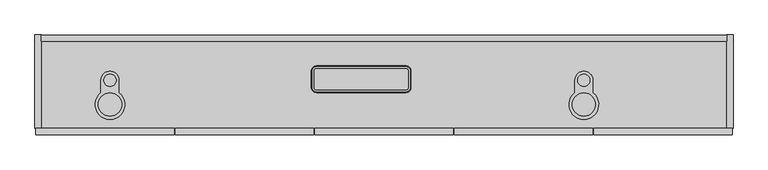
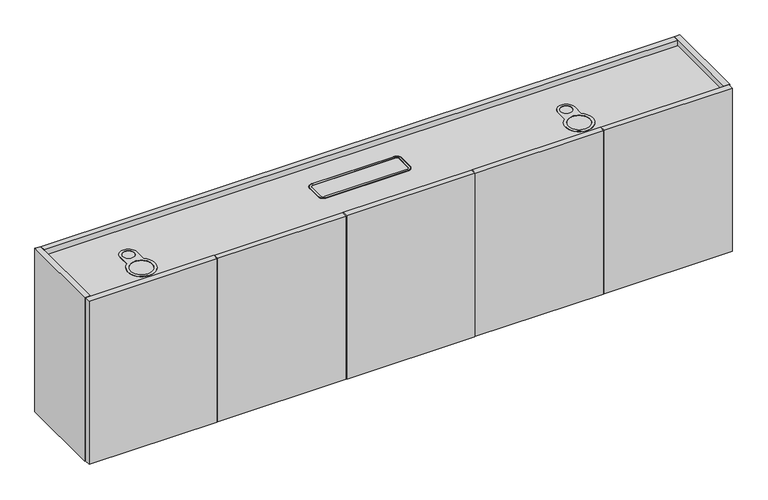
"""IFC4 building model written with IfcOpenShell, lengths in millimetres: furniture geometry, Geiger_GeigerOneCasegoods_UtilityCabinetForUseWithLDeskAccepts2Legs : Vertical Veneer 84Wx 12Dx 22.5H."""

from ifc_helpers import new_model, si_unit, point, frame, origin, place, context, project, spatial, polyline, circle_curve, ellipse_curve, trimmed, outline, extrude, faceted_brep, source, transform, mapped, element, save
from ifc_brep_helpers import plane_surface, cylinder_surface, revolved_surface, advanced_brep


def furniture_a0845434(model_context):
    return source(origin(), model_context, "Body", "SolidModel", [
        extrude(outline(polyline([(426.11876, -304.8), (3.0, -304.8), (3.0, -285.8), (426.11876, -285.8), (426.11876, -304.8)])), frame((0.0, 0.0, 12.7), z_axis=(0.0, 0.0, 1.0), x_axis=(1.0, 0.0, 0.0)), (0.0, 0.0, 1.0), 571.5),
        extrude(outline(polyline([(852.23752, -304.8), (429.11876, -304.8), (429.11876, -285.8), (852.23752, -285.8), (852.23752, -304.8)])), frame((0.0, 0.0, 12.7), z_axis=(0.0, 0.0, 1.0), x_axis=(1.0, 0.0, 0.0)), (0.0, 0.0, 1.0), 571.5),
        extrude(outline(polyline([(1278.35628, -304.8), (855.23752, -304.8), (855.23752, -285.8), (1278.35628, -285.8), (1278.35628, -304.8)])), frame((0.0, 0.0, 12.7), z_axis=(0.0, 0.0, 1.0), x_axis=(1.0, 0.0, 0.0)), (0.0, 0.0, 1.0), 571.5),
        extrude(outline(polyline([(1704.47504, -304.8), (1281.35628, -304.8), (1281.35628, -285.8), (1704.47504, -285.8), (1704.47504, -304.8)])), frame((0.0, 0.0, 12.7), z_axis=(0.0, 0.0, 1.0), x_axis=(1.0, 0.0, 0.0)), (0.0, 0.0, 1.0), 571.5),
        extrude(outline(polyline([(2130.6, -304.8), (1707.47504, -304.8), (1707.47504, -285.8), (2130.6, -285.8), (2130.6, -304.8)])), frame((0.0, 0.0, 12.7), z_axis=(0.0, 0.0, 1.0), x_axis=(1.0, 0.0, 0.0)), (0.0, 0.0, 1.0), 571.5),
        extrude(outline(polyline([(1270.9084, -284.8), (1270.9084, -19.5), (1289.9084, -19.5), (1289.9084, -284.8), (1270.9084, -284.8)])), frame((0.0, 0.0, 12.7), z_axis=(0.0, 0.0, 1.0), x_axis=(1.0, 0.0, 0.0)), (0.0, 0.0, 1.0), 533.5),
        faceted_brep([(2114.6, -19.5, 584.2), (2114.6, -19.5, 29.0), (2114.6, -0.5, 29.0), (2114.6, -0.5, 584.2), (2114.6, -284.3, 156.0), (2114.6, -284.3, 29.0), (2114.6, -265.3, 29.0), (2114.6, -265.3, 156.0), (19.0, -19.5, 584.2), (19.0, -0.5, 584.2), (19.0, -0.5, 29.0), (19.0, -19.5, 29.0), (19.0, -284.3, 156.0), (19.0, -265.3, 156.0), (19.0, -265.3, 29.0), (19.0, -284.3, 29.0), (418.3082, -19.5, 29.0), (418.3082, -19.5, 546.2), (437.3082, -19.5, 546.2), (437.3082, -19.5, 29.0), (418.3082, -265.3, 29.0), (418.3082, -283.875, 29.0), (437.3082, -283.875, 29.0), (437.3082, -265.3, 29.0), (437.3082, -265.3, 156.0), (418.3082, -265.3, 156.0), (437.3082, -283.875, 156.0), (418.3082, -283.875, 156.0), (418.3082, -283.875, 546.2), (418.3082, -19.5, 12.7), (418.3082, -283.875, 12.7), (437.3082, -283.875, 12.7), (437.3082, -19.5, 12.7), (437.3082, -283.875, 546.2)], [[[0, 1, 2, 3]], [[4, 5, 6, 7]], [[8, 9, 10, 11]], [[12, 13, 14, 15]], [[1, 0, 8, 11, 16, 17, 18, 19]], [[2, 1, 19, 16, 11, 10]], [[3, 2, 10, 9]], [[0, 3, 9, 8]], [[5, 4, 12, 15]], [[6, 5, 15, 14, 20, 21, 22, 23]], [[7, 6, 23, 24]], [[14, 13, 25, 20]], [[4, 7, 24, 26, 27, 25, 13, 12]], [[28, 17, 16, 29, 30, 21, 20, 25, 27]], [[31, 32, 19, 18, 33, 26, 24, 23, 22]], [[30, 31, 22, 21]], [[33, 28, 27, 26]], [[17, 28, 33, 18]], [[32, 29, 16, 19]], [[30, 29, 32, 31]]]),
        extrude(outline(polyline([(2114.6, -19.5), (2114.6, -284.8), (19.0, -284.8), (19.0, -19.5), (2114.6, -19.5)])), frame((0.0, 0.0, 546.2), z_axis=(0.0, 0.0, 1.0), x_axis=(1.0, 0.0, 0.0)), (0.0, 0.0, 1.0), 19.0),
        extrude(outline(polyline([(19.0, -284.8), (0.0, -284.8), (0.0, 0.0), (19.0, 0.0), (19.0, -284.8)])), frame((0.0, 0.0, 12.7), z_axis=(0.0, 0.0, 1.0), x_axis=(1.0, 0.0, 0.0)), (0.0, 0.0, 1.0), 571.5),
        extrude(outline(polyline([(2133.6, -284.8), (2114.6, -284.8), (2114.6, 0.0), (2133.6, 0.0), (2133.6, -284.8)])), frame((0.0, 0.0, 12.7), z_axis=(0.0, 0.0, 1.0), x_axis=(1.0, 0.0, 0.0)), (0.0, 0.0, 1.0), 571.5),
        advanced_brep(
        [(845.7219563, -110.825, 566.7), (860.9016, -95.6453563, 566.7), (860.9016, -94.4172964, 565.2), (844.4938964, -110.825, 565.2), (844.4938964, -160.025, 565.2), (845.7219563, -160.025, 566.7), (860.9016, -176.4327036, 565.2), (860.9016, -175.2046437, 566.7), (1133.1016, -176.4327036, 565.2), (1133.1016, -175.2046437, 566.7), (1149.5093036, -160.025, 565.2), (1148.2812437, -160.025, 566.7), (1149.5093036, -110.825, 565.2), (1148.2812437, -110.825, 566.7), (1133.1016, -94.4172964, 565.2), (1133.1016, -95.6453563, 566.7), (860.9016, -102.925, 566.7), (1133.1016, -102.925, 566.7), (1141.0016, -110.825, 566.7), (1141.0016, -160.025, 566.7), (1133.1016, -167.925, 566.7), (860.9016, -167.925, 566.7), (853.0016, -160.025, 566.7), (853.0016, -110.825, 566.7), (853.0016, -110.825, 566.001635), (860.9016, -102.925, 566.001635), (853.0016, -160.025, 566.001635), (860.9016, -167.925, 566.001635), (1133.1016, -167.925, 566.001635), (1141.0016, -160.025, 566.001635), (1141.0016, -110.825, 566.001635), (1133.1016, -102.925, 566.001635)],
        [
            (0, 1, circle_curve(frame((860.9016, -110.825, 566.7), z_axis=(0.0, 0.0, -1.0), x_axis=(0.0, 1.0, 0.0)), 15.1796437)),
            (1, 2, circle_curve(frame((860.9016, -95.6453563, 565.4472896), z_axis=(-1.0, 0.0, 0.0), x_axis=(0.0, -1.0, 0.0)), 1.2527104)),
            (2, 3, circle_curve(frame((860.9016, -110.825, 565.2), z_axis=(0.0, 0.0, 1.0), x_axis=(0.0, 1.0, 0.0)), 16.4077036)),
            (3, 0, circle_curve(frame((845.7219563, -110.825, 565.4472896), z_axis=(0.0, 1.0, 0.0), x_axis=(1.0, 0.0, 0.0)), 1.2527104)),
            (3, 4),
            (4, 5, circle_curve(frame((845.7219563, -160.025, 565.4472896), z_axis=(0.0, 1.0, 0.0), x_axis=(1.0, 0.0, 0.0)), 1.2527104)),
            (5, 0),
            (4, 6, circle_curve(frame((860.9016, -160.025, 565.2), z_axis=(0.0, 0.0, 1.0), x_axis=(-1.0, 0.0, 0.0)), 16.4077036)),
            (6, 7, circle_curve(frame((860.9016, -175.2046437, 565.4472896), z_axis=(-1.0, 0.0, 0.0), x_axis=(0.0, 1.0, 0.0)), 1.2527104)),
            (7, 5, circle_curve(frame((860.9016, -160.025, 566.7), z_axis=(0.0, 0.0, -1.0), x_axis=(-1.0, 0.0, 0.0)), 15.1796437)),
            (6, 8),
            (8, 9, circle_curve(frame((1133.1016, -175.2046437, 565.4472896), z_axis=(-1.0, 0.0, 0.0), x_axis=(0.0, 1.0, 0.0)), 1.2527104)),
            (9, 7),
            (8, 10, circle_curve(frame((1133.1016, -160.025, 565.2), z_axis=(0.0, 0.0, 1.0), x_axis=(0.0, -1.0, 0.0)), 16.4077036)),
            (10, 11, circle_curve(frame((1148.2812437, -160.025, 565.4472896), z_axis=(0.0, -1.0, 0.0), x_axis=(-1.0, 0.0, 0.0)), 1.2527104)),
            (11, 9, circle_curve(frame((1133.1016, -160.025, 566.7), z_axis=(0.0, 0.0, -1.0), x_axis=(0.0, -1.0, 0.0)), 15.1796437)),
            (10, 12),
            (12, 13, circle_curve(frame((1148.2812437, -110.825, 565.4472896), z_axis=(0.0, -1.0, 0.0), x_axis=(-1.0, 0.0, 0.0)), 1.2527104)),
            (13, 11),
            (12, 14, circle_curve(frame((1133.1016, -110.825, 565.2), z_axis=(0.0, 0.0, 1.0), x_axis=(1.0, 0.0, 0.0)), 16.4077036)),
            (14, 15, circle_curve(frame((1133.1016, -95.6453563, 565.4472896), z_axis=(1.0, 0.0, 0.0), x_axis=(0.0, -1.0, 0.0)), 1.2527104)),
            (15, 13, circle_curve(frame((1133.1016, -110.825, 566.7), z_axis=(0.0, 0.0, -1.0), x_axis=(1.0, 0.0, 0.0)), 15.1796437)),
            (1, 15),
            (14, 2),
            (16, 17),
            (17, 18, circle_curve(frame((1133.1016, -110.825, 566.7), z_axis=(0.0, 0.0, -1.0), x_axis=(1.0, 0.0, 0.0)), 7.9)),
            (18, 19),
            (19, 20, circle_curve(frame((1133.1016, -160.025, 566.7), z_axis=(0.0, 0.0, -1.0), x_axis=(0.0, -1.0, 0.0)), 7.9)),
            (20, 21),
            (21, 22, circle_curve(frame((860.9016, -160.025, 566.7), z_axis=(0.0, 0.0, -1.0), x_axis=(-1.0, 0.0, 0.0)), 7.9)),
            (22, 23),
            (23, 16, circle_curve(frame((860.9016, -110.825, 566.7), z_axis=(0.0, 0.0, -1.0), x_axis=(0.0, 1.0, 0.0)), 7.9)),
            (23, 24),
            (24, 25, circle_curve(frame((860.9016, -110.825, 566.001635), z_axis=(0.0, 0.0, -1.0), x_axis=(0.0, 1.0, 0.0)), 7.9)),
            (25, 16),
            (22, 26),
            (26, 24),
            (21, 27),
            (27, 26, circle_curve(frame((860.9016, -160.025, 566.001635), z_axis=(0.0, 0.0, -1.0), x_axis=(-1.0, 0.0, 0.0)), 7.9)),
            (20, 28),
            (28, 27),
            (19, 29),
            (29, 28, circle_curve(frame((1133.1016, -160.025, 566.001635), z_axis=(0.0, 0.0, -1.0), x_axis=(0.0, -1.0, 0.0)), 7.9)),
            (18, 30),
            (30, 29),
            (17, 31),
            (31, 30, circle_curve(frame((1133.1016, -110.825, 566.001635), z_axis=(0.0, 0.0, -1.0), x_axis=(1.0, 0.0, 0.0)), 7.9)),
            (25, 31),
        ],
        [
            revolved_surface(trimmed(ellipse_curve(frame((860.9016, -95.6453563, 565.4472896), z_axis=(1.0, 0.0, 0.0), x_axis=(0.0, -1.0, 0.0)), 1.2527104, 1.2527104), [point((860.9016, -94.4172964, 565.2))], [point((860.9016, -95.6453563, 566.7))], True, "CARTESIAN"), (860.9016, -110.825, 565.2), (0.0, 0.0, 1.0)),
            cylinder_surface(frame((845.7219563, -110.825, 565.4472896), z_axis=(0.0, 1.0, 0.0), x_axis=(1.0, 0.0, 0.0)), 1.2527104),
            revolved_surface(trimmed(ellipse_curve(frame((845.7219563, -160.025, 565.4472896), z_axis=(0.0, 1.0, 0.0), x_axis=(1.0, 0.0, 0.0)), 1.2527104, 1.2527104), [point((844.4938964, -160.025, 565.2))], [point((845.7219563, -160.025, 566.7))], True, "CARTESIAN"), (860.9016, -160.025, 565.2), (0.0, 0.0, 1.0)),
            cylinder_surface(frame((860.9016, -175.2046437, 565.4472896), z_axis=(-1.0, 0.0, 0.0), x_axis=(0.0, 1.0, 0.0)), 1.2527104),
            revolved_surface(trimmed(ellipse_curve(frame((1133.1016, -175.2046437, 565.4472896), z_axis=(-1.0, 0.0, 0.0), x_axis=(0.0, 1.0, 0.0)), 1.2527104, 1.2527104), [point((1133.1016, -176.4327036, 565.2))], [point((1133.1016, -175.2046437, 566.7))], True, "CARTESIAN"), (1133.1016, -160.025, 565.2), (0.0, 0.0, 1.0)),
            cylinder_surface(frame((1148.2812437, -160.025, 565.4472896), z_axis=(0.0, -1.0, 0.0), x_axis=(-1.0, 0.0, 0.0)), 1.2527104),
            revolved_surface(trimmed(ellipse_curve(frame((1148.2812437, -110.825, 565.4472896), z_axis=(0.0, -1.0, 0.0), x_axis=(-1.0, 0.0, 0.0)), 1.2527104, 1.2527104), [point((1149.5093036, -110.825, 565.2))], [point((1148.2812437, -110.825, 566.7))], True, "CARTESIAN"), (1133.1016, -110.825, 565.2), (0.0, 0.0, 1.0)),
            cylinder_surface(frame((1133.1016, -95.6453563, 565.4472896), z_axis=(1.0, 0.0, 0.0), x_axis=(0.0, -1.0, 0.0)), 1.2527104),
            plane_surface(frame((1133.1016, -95.6453563, 566.7), z_axis=(0.0, 0.0, 1.0), x_axis=(-1.0, 0.0, 0.0))),
            revolved_surface(polyline([(860.9016, -102.925, 566.7), (860.9016, -102.925, 566.001635)]), (860.9016, -110.825, 565.2), (0.0, 0.0, 1.0)),
            plane_surface(frame((853.0016, -110.825, 566.7), z_axis=(1.0, 0.0, 0.0), x_axis=(0.0, -1.0, 0.0))),
            revolved_surface(polyline([(853.0016, -160.025, 566.7), (853.0016, -160.025, 566.001635)]), (860.9016, -160.025, 565.2), (0.0, 0.0, 1.0)),
            plane_surface(frame((860.9016, -167.925, 566.7), z_axis=(0.0, 1.0, 0.0), x_axis=(1.0, 0.0, 0.0))),
            revolved_surface(polyline([(1133.1016, -167.925, 566.7), (1133.1016, -167.925, 566.001635)]), (1133.1016, -160.025, 565.2), (0.0, 0.0, 1.0)),
            plane_surface(frame((1141.0016, -160.025, 566.7), z_axis=(-1.0, 0.0, 0.0), x_axis=(0.0, 1.0, 0.0))),
            revolved_surface(polyline([(1141.0016, -110.825, 566.7), (1141.0016, -110.825, 566.001635)]), (1133.1016, -110.825, 565.2), (0.0, 0.0, 1.0)),
            plane_surface(frame((1133.1016, -102.925, 566.7), z_axis=(0.0, -1.0, 0.0), x_axis=(-1.0, 0.0, 0.0))),
            plane_surface(frame((1133.1016, -102.925, 565.2), z_axis=(0.0, 0.0, -1.0), x_axis=(-1.0, 0.0, 0.0))),
            plane_surface(frame((860.9016, -102.925, 566.001635), z_axis=(0.0, 0.0, 1.0), x_axis=(-1.0, 0.0, 0.0))),
        ],
        [
            (0, [[1, 2, 3, 4]]),
            (1, [[-4, 5, 6, 7]]),
            (2, [[-6, 8, 9, 10]]),
            (3, [[-9, 11, 12, 13]]),
            (4, [[-12, 14, 15, 16]]),
            (5, [[-15, 17, 18, 19]]),
            (6, [[-18, 20, 21, 22]]),
            (7, [[-2, 23, -21, 24]]),
            (8, [[-1, -7, -10, -13, -16, -19, -22, -23], [25, 26, 27, 28, 29, 30, 31, 32]]),
            (9, [[-32, 33, 34, 35]]),
            (10, [[-31, 36, 37, -33]]),
            (11, [[-30, 38, 39, -36]]),
            (12, [[-29, 40, 41, -38]]),
            (13, [[-28, 42, 43, -40]]),
            (14, [[-27, 44, 45, -42]]),
            (15, [[-26, 46, 47, -44]]),
            (16, [[-25, -35, 48, -46]]),
            (17, [[-3, -24, -20, -17, -14, -11, -8, -5]]),
            (18, [[-34, -37, -39, -41, -43, -45, -47, -48]]),
        ],
    ),
        advanced_brep(
        [(256.939, -177.1090661, 565.2), (201.939, -177.1090661, 565.2), (201.939, -138.6393843, 565.2), (256.939, -138.6393843, 565.2), (256.939, -177.1090661, 566.8), (256.939, -138.6393843, 566.8), (201.939, -138.6393843, 566.8), (201.939, -177.1090661, 566.8), (229.439, -157.5707393, 566.8), (229.439, -119.7080294, 566.8), (229.439, -248.2790899, 566.8), (229.439, -177.4196387, 566.8), (229.439, -157.5707393, 566.001635), (229.439, -119.7080294, 566.001635), (229.439, -248.2790899, 566.001635), (229.439, -177.4196387, 566.001635)],
        [
            (0, 1, circle_curve(frame((229.439, -212.8493643, 565.2), z_axis=(0.0, 0.0, -1.0), x_axis=(0.0, 1.0, 0.0)), 45.095664)),
            (1, 2),
            (2, 3, circle_curve(frame((229.439, -138.6393843, 565.2), z_axis=(0.0, 0.0, -1.0), x_axis=(0.0, 1.0, 0.0)), 27.5)),
            (3, 0),
            (4, 5),
            (5, 6, circle_curve(frame((229.439, -138.6393843, 566.8), z_axis=(0.0, 0.0, 1.0), x_axis=(0.0, 1.0, 0.0)), 27.5)),
            (6, 7),
            (7, 4, circle_curve(frame((229.439, -212.8493643, 566.8), z_axis=(0.0, 0.0, 1.0), x_axis=(0.0, 1.0, 0.0)), 45.095664)),
            (8, 9, circle_curve(frame((229.439, -138.6393843, 566.8), z_axis=(0.0, 0.0, -1.0), x_axis=(0.0, 1.0, 0.0)), 18.931355)),
            (9, 8, circle_curve(frame((229.439, -138.6393843, 566.8), z_axis=(0.0, 0.0, -1.0), x_axis=(0.0, 1.0, 0.0)), 18.931355)),
            (10, 11, circle_curve(frame((229.439, -212.8493643, 566.8), z_axis=(0.0, 0.0, -1.0), x_axis=(0.0, 1.0, 0.0)), 35.4297256)),
            (11, 10, circle_curve(frame((229.439, -212.8493643, 566.8), z_axis=(0.0, 0.0, -1.0), x_axis=(0.0, 1.0, 0.0)), 35.4297256)),
            (3, 5),
            (4, 0),
            (2, 6),
            (1, 7),
            (8, 12),
            (12, 13, circle_curve(frame((229.439, -138.6393843, 566.001635), z_axis=(0.0, 0.0, -1.0), x_axis=(0.0, 1.0, 0.0)), 18.931355)),
            (13, 9),
            (13, 12, circle_curve(frame((229.439, -138.6393843, 566.001635), z_axis=(0.0, 0.0, -1.0), x_axis=(0.0, 1.0, 0.0)), 18.931355)),
            (10, 14),
            (14, 15, circle_curve(frame((229.439, -212.8493643, 566.001635), z_axis=(0.0, 0.0, -1.0), x_axis=(0.0, 1.0, 0.0)), 35.4297256)),
            (15, 11),
            (15, 14, circle_curve(frame((229.439, -212.8493643, 566.001635), z_axis=(0.0, 0.0, -1.0), x_axis=(0.0, 1.0, 0.0)), 35.4297256)),
        ],
        [
            plane_surface(frame((229.439, -265.3, 565.2), z_axis=(0.0, 0.0, -1.0), x_axis=(-1.0, 0.0, 0.0))),
            plane_surface(frame((229.439, -265.3, 566.8), z_axis=(0.0, 0.0, 1.0), x_axis=(-1.0, 0.0, 0.0))),
            plane_surface(frame((256.939, -138.6393843, 565.2), z_axis=(1.0, 0.0, 0.0), x_axis=(0.0, 0.0, 1.0))),
            cylinder_surface(frame((229.439, -138.6393843, 565.2), z_axis=(0.0, 0.0, -1.0), x_axis=(0.0, 1.0, 0.0)), 27.5),
            plane_surface(frame((201.939, -177.1090661, 565.2), z_axis=(-1.0, 0.0, 0.0), x_axis=(0.0, 0.0, 1.0))),
            cylinder_surface(frame((229.439, -212.8493643, 565.2), z_axis=(0.0, 0.0, -1.0), x_axis=(0.0, 1.0, 0.0)), 45.095664),
            revolved_surface(polyline([(229.439, -119.70802929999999, 566.8), (229.439, -119.70802929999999, 566.001635)]), (229.439, -138.6393843, 565.2), (0.0, 0.0, 1.0)),
            revolved_surface(polyline([(229.439, -177.4196387, 566.8), (229.439, -177.4196387, 566.001635)]), (229.439, -212.8493643, 565.2), (0.0, 0.0, 1.0)),
            plane_surface(frame((210.507645, -138.6393843, 566.001635), z_axis=(0.0, 0.0, 1.0), x_axis=(0.0, -1.0, 0.0))),
        ],
        [
            (0, [[1, 2, 3, 4]]),
            (1, [[5, 6, 7, 8], [9, 10], [11, 12]]),
            (2, [[-4, 13, -5, 14]]),
            (3, [[-3, 15, -6, -13]]),
            (4, [[-2, 16, -7, -15]]),
            (5, [[-1, -14, -8, -16]]),
            (6, [[-9, 17, 18, 19]]),
            (6, [[-10, -19, 20, -17]]),
            (7, [[-11, 21, 22, 23]]),
            (7, [[-12, -23, 24, -21]]),
            (8, [[-18, -20]]),
            (8, [[-22, -24]]),
        ],
    ),
        advanced_brep(
        [(1649.966, -177.1090661, 565.2), (1649.966, -138.6393843, 565.2), (1704.966, -138.6393843, 565.2), (1704.966, -177.1090661, 565.2), (1649.966, -177.1090661, 566.8), (1704.966, -177.1090661, 566.8), (1704.966, -138.6393843, 566.8), (1649.966, -138.6393843, 566.8), (1677.466, -119.7080294, 566.8), (1677.466, -157.5707393, 566.8), (1677.466, -177.4196387, 566.8), (1677.466, -248.2790899, 566.8), (1677.466, -157.5707393, 566.1909845), (1677.466, -119.7080294, 566.1909845), (1677.466, -248.2790899, 566.1909845), (1677.466, -177.4196387, 566.1909845)],
        [
            (0, 1),
            (1, 2, circle_curve(frame((1677.466, -138.6393843, 565.2), z_axis=(0.0, 0.0, -1.0), x_axis=(0.0, -1.0, 0.0)), 27.5)),
            (2, 3),
            (3, 0, circle_curve(frame((1677.466, -212.8493643, 565.2), z_axis=(0.0, 0.0, -1.0), x_axis=(0.0, -1.0, 0.0)), 45.095664)),
            (4, 5, circle_curve(frame((1677.466, -212.8493643, 566.8), z_axis=(0.0, 0.0, 1.0), x_axis=(0.0, -1.0, 0.0)), 45.095664)),
            (5, 6),
            (6, 7, circle_curve(frame((1677.466, -138.6393843, 566.8), z_axis=(0.0, 0.0, 1.0), x_axis=(0.0, -1.0, 0.0)), 27.5)),
            (7, 4),
            (8, 9, circle_curve(frame((1677.466, -138.6393843, 566.8), z_axis=(0.0, 0.0, -1.0), x_axis=(0.0, -1.0, 0.0)), 18.931355)),
            (9, 8, circle_curve(frame((1677.466, -138.6393843, 566.8), z_axis=(0.0, 0.0, -1.0), x_axis=(0.0, -1.0, 0.0)), 18.931355)),
            (10, 11, circle_curve(frame((1677.466, -212.8493643, 566.8), z_axis=(0.0, 0.0, -1.0), x_axis=(0.0, -1.0, 0.0)), 35.4297256)),
            (11, 10, circle_curve(frame((1677.466, -212.8493643, 566.8), z_axis=(0.0, 0.0, -1.0), x_axis=(0.0, -1.0, 0.0)), 35.4297256)),
            (0, 4),
            (7, 1),
            (6, 2),
            (5, 3),
            (9, 12),
            (12, 13, circle_curve(frame((1677.466, -138.6393843, 566.1909845), z_axis=(0.0, 0.0, -1.0), x_axis=(0.0, -1.0, 0.0)), 18.931355)),
            (13, 8),
            (13, 12, circle_curve(frame((1677.466, -138.6393843, 566.1909845), z_axis=(0.0, 0.0, -1.0), x_axis=(0.0, -1.0, 0.0)), 18.931355)),
            (11, 14),
            (14, 15, circle_curve(frame((1677.466, -212.8493643, 566.1909845), z_axis=(0.0, 0.0, -1.0), x_axis=(0.0, -1.0, 0.0)), 35.4297256)),
            (15, 10),
            (15, 14, circle_curve(frame((1677.466, -212.8493643, 566.1909845), z_axis=(0.0, 0.0, -1.0), x_axis=(0.0, -1.0, 0.0)), 35.4297256)),
        ],
        [
            plane_surface(frame((1677.466, -265.3, 565.2), z_axis=(0.0, 0.0, -1.0), x_axis=(1.0, 0.0, 0.0))),
            plane_surface(frame((1677.466, -265.3, 566.8), z_axis=(0.0, 0.0, 1.0), x_axis=(1.0, 0.0, 0.0))),
            plane_surface(frame((1649.966, -177.1090661, 565.2), z_axis=(-1.0, 0.0, 0.0), x_axis=(0.0, 0.0, 1.0))),
            cylinder_surface(frame((1677.466, -138.6393843, 565.2), z_axis=(0.0, 0.0, -1.0), x_axis=(0.0, -1.0, 0.0)), 27.5),
            plane_surface(frame((1704.966, -138.6393843, 565.2), z_axis=(1.0, 0.0, 0.0), x_axis=(0.0, 0.0, 1.0))),
            cylinder_surface(frame((1677.466, -212.8493643, 565.2), z_axis=(0.0, 0.0, -1.0), x_axis=(0.0, -1.0, 0.0)), 45.095664),
            revolved_surface(polyline([(1677.466, -157.57073929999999, 566.8), (1677.466, -157.57073929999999, 566.1909845)]), (1677.466, -138.6393843, 565.2), (0.0, 0.0, 1.0)),
            revolved_surface(polyline([(1677.466, -248.27908989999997, 566.8), (1677.466, -248.27908989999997, 566.1909845)]), (1677.466, -212.8493643, 565.2), (0.0, 0.0, 1.0)),
            plane_surface(frame((1658.534645, -138.6393843, 566.1909845), z_axis=(0.0, 0.0, 1.0), x_axis=(0.0, -1.0, 0.0))),
        ],
        [
            (0, [[1, 2, 3, 4]]),
            (1, [[5, 6, 7, 8], [9, 10], [11, 12]]),
            (2, [[-1, 13, -8, 14]]),
            (3, [[-2, -14, -7, 15]]),
            (4, [[-3, -15, -6, 16]]),
            (5, [[-4, -16, -5, -13]]),
            (6, [[-10, 17, 18, 19]]),
            (6, [[-9, -19, 20, -17]]),
            (7, [[-12, 21, 22, 23]]),
            (7, [[-11, -23, 24, -21]]),
            (8, [[-18, -20]]),
            (8, [[-22, -24]]),
        ],
    ),
    ])


if __name__ == "__main__":
    model = new_model("IFC4")
    model_context = context("Model", 3, world=origin())
    ifc_project = project(units=[si_unit("LENGTHUNIT", "METRE", prefix="MILLI")], contexts=[model_context])
    site = spatial("IfcSite", under=ifc_project)
    building = spatial("IfcBuilding", under=site)
    placement = place(None, origin())
    furniture_shape = furniture_a0845434(model_context)
    element("IfcFurniture", 1, ObjectType="Geiger_GeigerOneCasegoods_UtilityCabinetForUseWithLDeskAccepts2Legs : Vertical Veneer 84Wx 12Dx 22.5H", at=placement, inside=building, context=model_context, shape_type="MappedRepresentation", body=[
        mapped(furniture_shape, transform((0.0, 0.0, 0.0), x_axis=(1.0, 0.0, 0.0), y_axis=(0.0, 1.0, 0.0), z_axis=(0.0, 0.0, 1.0))),
    ])
    save(model, "model.ifc")
